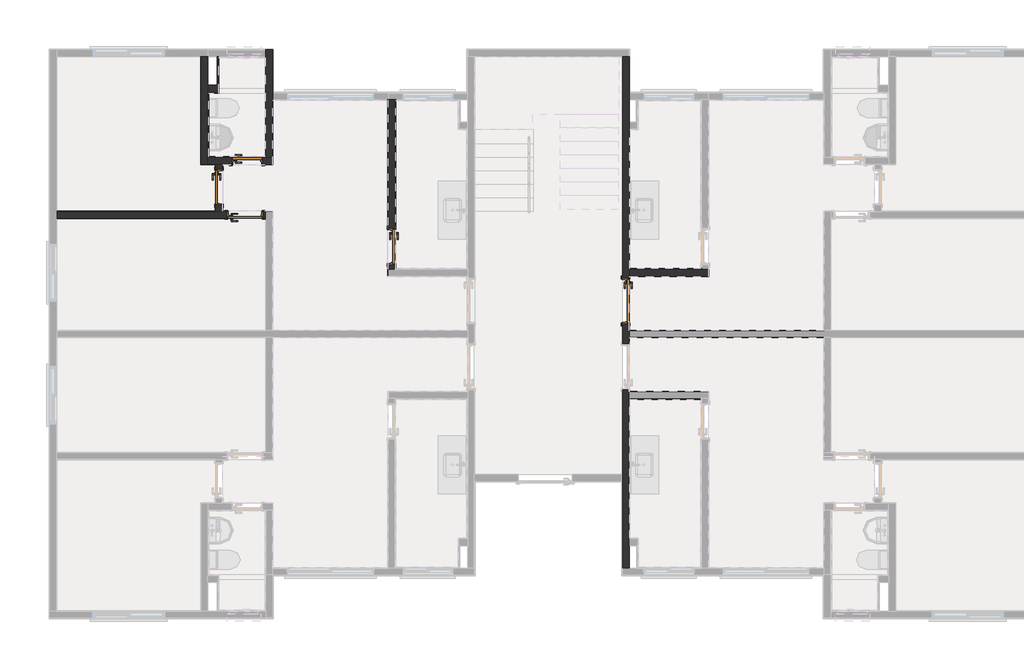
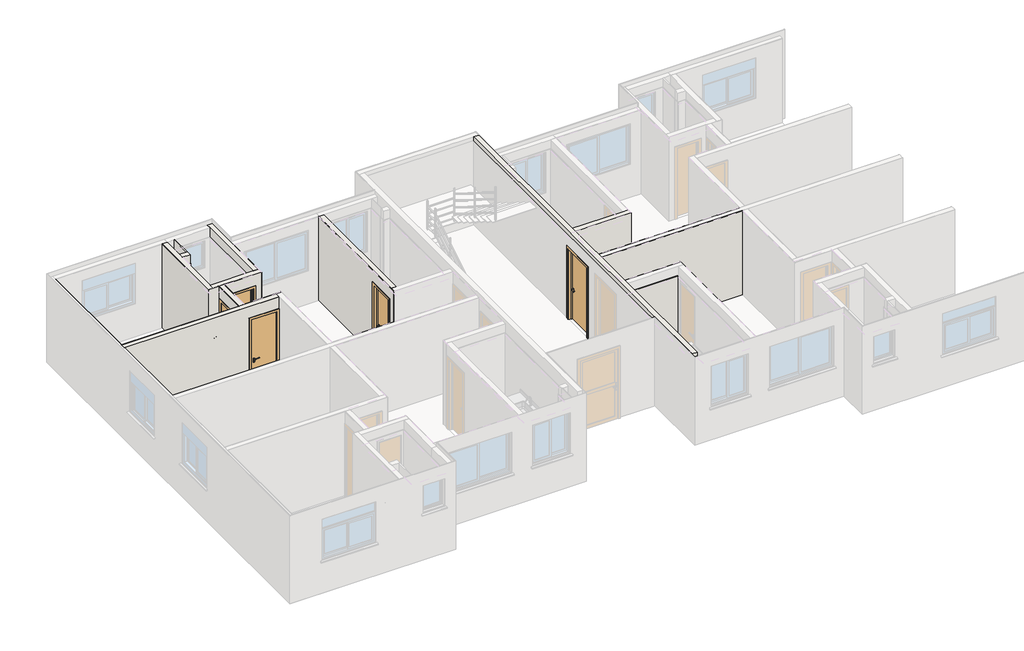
# One storey, part 4 of 9: 36 walls, 5 doors.
"""IFC4 building model written with IfcOpenShell, lengths in millimetres."""

from ifc_helpers import new_model, si_unit, frame, origin, place, context, project, spatial, polyline, outline, extrude, faceted_brep, transform, mapped, element, save
from components import porta_de_madeira_interna_60_x_210_porta_de_madeira_interna_6d4bee1b, porta_de_madeira_interna_70_x_210_porta_de_madeira_interna_d0067c94, porta_de_madeira_interna_70_x_210_porta_de_madeira_interna_f307109d, porta_de_madeira_interna_90x210_porta_de_madeira_interna_90_f331fdd0

model = new_model("IFC4")

# Units and contexts
model_context = context("Model", 3, world=origin())
ifc_project = project(units=[si_unit("LENGTHUNIT", "METRE", prefix="MILLI")], contexts=[model_context])

# Site, building, storey
site = spatial("IfcSite", under=ifc_project)
building = spatial("IfcBuilding", under=site)
storey = spatial("IfcBuildingStorey", under=building, Name="2º Pavimento", Elevation=2630.0)

# Doors
placement = place(None, origin())
porta_de_madeira_interna_60_x_210_porta_de_madeira_interna_shape = porta_de_madeira_interna_60_x_210_porta_de_madeira_interna_6d4bee1b(model_context)
element("IfcDoor", 1, ObjectType="Porta de Madeira Interna 60 x 210 : Porta de Madeira Interna 60 x 210", at=placement, inside=storey, context=model_context, shape_type="MappedRepresentation", body=[
    mapped(porta_de_madeira_interna_60_x_210_porta_de_madeira_interna_shape, transform((4137.9990083, 10003.1988664, 2630.0), x_axis=(1.0, 0.0, 0.0), y_axis=(0.0, 1.0, 0.0), z_axis=(0.0, 0.0, 1.0))),
])
porta_de_madeira_interna_70_x_210_porta_de_madeira_interna_shape = porta_de_madeira_interna_70_x_210_porta_de_madeira_interna_d0067c94(model_context)
element("IfcDoor", 2, ObjectType="Porta de Madeira Interna 70 x 210 : Porta de Madeira Interna 70 x 210", at=placement, inside=storey, context=model_context, shape_type="MappedRepresentation", body=[
    mapped(porta_de_madeira_interna_70_x_210_porta_de_madeira_interna_shape, transform((7146.1736861, 8221.3603139, 2630.0), x_axis=(0.0, -1.0, 0.0), y_axis=(1.0, 0.0, 0.0), z_axis=(0.0, 0.0, 1.0))),
])
porta_de_madeira_interna_70_x_210_porta_de_madeira_interna_2_shape = porta_de_madeira_interna_70_x_210_porta_de_madeira_interna_f307109d(model_context)
element("IfcDoor", 3, ObjectType="Porta de Madeira Interna 70 x 210 : Porta de Madeira Interna 70 x 210", at=placement, inside=storey, context=model_context, shape_type="MappedRepresentation", body=[
    mapped(porta_de_madeira_interna_70_x_210_porta_de_madeira_interna_2_shape, transform((3546.8230641, 9457.0248023, 2630.0), x_axis=(0.0, -1.0, 0.0), y_axis=(1.0, 0.0, 0.0), z_axis=(0.0, 0.0, 1.0))),
])
element("IfcDoor", 4, ObjectType="Porta de Madeira Interna 70 x 210 : Porta de Madeira Interna 70 x 210", at=placement, inside=storey, context=model_context, shape_type="MappedRepresentation", body=[
    mapped(porta_de_madeira_interna_70_x_210_porta_de_madeira_interna_2_shape, transform((4092.999908, 8876.8494803, 2630.0), x_axis=(1.0, 0.0, 0.0), y_axis=(0.0, 1.0, 0.0), z_axis=(0.0, 0.0, 1.0))),
])
porta_de_madeira_interna_90x210_porta_de_madeira_interna_90_shape = porta_de_madeira_interna_90x210_porta_de_madeira_interna_90_f331fdd0(model_context)
element("IfcDoor", 5, ObjectType="Porta de Madeira Interna 90x210 : Porta de Madeira Interna 90 x 210", at=placement, inside=storey, context=model_context, shape_type="MappedRepresentation", body=[
    mapped(porta_de_madeira_interna_90x210_porta_de_madeira_interna_90_shape, transform((12023.1734066, 7085.0103139, 2630.0), x_axis=(0.0, -1.0, 0.0), y_axis=(1.0, 0.0, 0.0), z_axis=(0.0, 0.0, 1.0))),
])

# Walls
element("IfcWall", 6, ObjectType="Mureta box", at=placement, inside=storey, context=model_context, shape_type="SweptSolid", body=[
    extrude(outline(polyline([(3529.99398, 11505.0235306), (4509.99398, 11505.0235306), (4509.99398, 11495.0235306), (3529.99398, 11495.0235306), (3529.99398, 11505.0235306)])), frame((0.0, 0.0, 2630.0), z_axis=(0.0, 0.0, 1.0), x_axis=(1.0, 0.0, 0.0)), (0.0, 0.0, 1.0), 90.0),
    extrude(outline(polyline([(4509.99398, 11425.0235306), (3529.99398, 11425.0235306), (3529.99398, 11435.0235306), (4509.99398, 11435.0235306), (4509.99398, 11425.0235306)])), frame((0.0, 0.0, 2630.0), z_axis=(0.0, 0.0, 1.0), x_axis=(1.0, 0.0, 0.0)), (0.0, 0.0, 1.0), 90.0),
    extrude(outline(polyline([(3529.99398, 11435.0235306), (3529.99398, 11495.0235306), (4509.99398, 11495.0235306), (4509.99398, 11435.0235306), (3529.99398, 11435.0235306)])), frame((0.0, 0.0, 2630.0), z_axis=(0.0, 0.0, 1.0), x_axis=(1.0, 0.0, 0.0)), (0.0, 0.0, 1.0), 90.0),
])
element("IfcWall", 7, ObjectType="Alvenaria Estrutural", at=placement, inside=storey, context=model_context, shape_type="Brep", body=[
    faceted_brep([(3619.9980641, 9930.0238664, 5140.0), (3619.9980641, 9924.0238664, 5140.0), (3619.9980641, 8956.0244803, 5140.0), (3619.9980641, 8950.0244803, 5140.0), (3619.9980641, 8950.0244803, 2630.0), (3619.9980641, 8956.0244803, 2630.0), (3619.9980641, 9082.0248023, 2630.0), (3619.9980641, 9082.0248023, 4755.0), (3619.9980641, 9832.0248023, 4755.0), (3619.9980641, 9832.0248023, 2630.0), (3619.9980641, 9924.0238664, 2630.0), (3619.9980641, 9930.0238664, 2630.0), (3479.9980641, 8950.0244803, 5140.0), (3479.9980641, 9924.0238664, 5140.0), (3479.9980641, 9930.0238664, 5140.0), (3479.9980641, 9930.0238664, 2630.0), (3479.9980641, 9924.0238664, 2630.0), (3479.9980641, 9832.0248023, 2630.0), (3479.9980641, 9832.0248023, 4755.0), (3479.9980641, 9082.0248023, 4755.0), (3479.9980641, 9082.0248023, 2630.0), (3479.9980641, 8950.0244803, 2630.0)], [[[0, 1, 2, 3, 4, 5, 6, 7, 8, 9, 10, 11]], [[12, 13, 14, 15, 16, 17, 18, 19, 20, 21]], [[5, 4, 21, 20, 6]], [[1, 0, 14, 13, 12, 3, 2]], [[7, 6, 20, 19]], [[8, 7, 19, 18]], [[9, 8, 18, 17]], [[4, 3, 12, 21]], [[0, 11, 15, 14]], [[10, 9, 17, 16, 15, 11]]]),
])
element("IfcWall", 8, ObjectType="Alvenaria Estrutural", at=placement, inside=storey, context=model_context, shape_type="Brep", body=[
    faceted_brep([(3179.9977061, 12180.0252435, 2630.0), (3179.9977061, 12174.0253822, 2630.0), (3179.9977061, 9930.025593, 2630.0), (3179.9977061, 9930.025593, 5140.0), (3179.9977061, 12174.0253822, 5140.0), (3179.9977061, 12180.0252435, 5140.0), (3319.9977061, 12180.0252435, 2630.0), (3319.9977061, 12180.0252435, 5140.0), (3319.9977061, 11580.0235306, 5140.0), (3319.9977061, 11440.0235306, 5140.0), (3319.9977061, 10070.0238664, 5140.0), (3319.9977061, 9930.025593, 5140.0), (3319.9977061, 9930.025593, 2630.0), (3319.9977061, 10070.0238664, 2630.0), (3319.9977061, 10090.0238664, 2630.0), (3319.9977061, 11420.0235306, 2630.0), (3319.9977061, 11440.0235306, 2630.0), (3319.9977061, 11580.0235306, 2630.0)], [[[0, 1, 2, 3, 4, 5]], [[6, 7, 8, 9, 10, 11, 12, 13, 14, 15, 16, 17]], [[1, 0, 6, 17, 16, 15, 14, 13, 12, 2]], [[3, 2, 12, 11]], [[4, 3, 11, 10, 9, 8, 7, 5]], [[0, 5, 7, 6]]]),
])
element("IfcWall", 9, ObjectType="Alvenaria Estrutural", at=placement, inside=storey, context=model_context, shape_type="Brep", body=[
    faceted_brep([(3319.9977061, 11440.0235306, 2630.0), (3539.99398, 11440.0235306, 2630.0), (3539.99398, 11440.0235306, 5140.0), (3319.9977061, 11440.0235306, 5140.0), (3319.9977061, 11580.0235306, 2630.0), (3319.9977061, 11580.0235306, 5140.0), (3516.99398, 11580.0235306, 5140.0), (3539.99398, 11580.0235306, 5140.0), (3539.99398, 11580.0235306, 2630.0), (3516.99398, 11580.0235306, 2630.0)], [[[0, 1, 2, 3]], [[4, 5, 6, 7, 8, 9]], [[1, 0, 4, 9, 8]], [[3, 2, 7, 6, 5]], [[2, 1, 8, 7]], [[0, 3, 5, 4]]]),
])
element("IfcWall", 10, ObjectType="Alvenaria Estrutural", at=placement, inside=storey, context=model_context, shape_type="Brep", body=[
    faceted_brep([(4669.9986472, 9930.0238664, 5140.0), (3625.9980641, 9930.0238664, 5140.0), (3619.9980641, 9930.0238664, 5140.0), (3479.9980641, 9930.0238664, 5140.0), (3319.9977061, 9930.0238664, 5140.0), (3319.9977061, 9930.0238664, 2630.0), (3479.9980641, 9930.0238664, 2630.0), (3619.9980641, 9930.0238664, 2630.0), (3625.9980641, 9930.0238664, 2630.0), (3812.9990083, 9930.0238664, 2630.0), (3812.9990083, 9930.0238664, 4755.0), (4462.9990083, 9930.0238664, 4755.0), (4462.9990083, 9930.0238664, 2630.0), (4669.9986472, 9930.0238664, 2630.0), (3319.9977061, 10070.0238664, 5140.0), (4529.9986472, 10070.0238664, 5140.0), (4669.9986472, 10070.0238664, 5140.0), (4669.9986472, 10070.0238664, 2630.0), (4529.9986472, 10070.0238664, 2630.0), (4462.9990083, 10070.0238664, 2630.0), (4462.9990083, 10070.0238664, 4755.0), (3812.9990083, 10070.0238664, 4755.0), (3812.9990083, 10070.0238664, 2630.0), (3319.9977061, 10070.0238664, 2630.0), (3319.9977061, 10070.0238664, 4880.0)], [[[0, 1, 2, 3, 4, 5, 6, 7, 8, 9, 10, 11, 12, 13]], [[14, 15, 16, 17, 18, 19, 20, 21, 22, 23, 24]], [[6, 5, 23, 22, 9, 8, 7]], [[1, 0, 16, 15, 14, 4, 3, 2]], [[12, 11, 20, 19]], [[11, 10, 21, 20]], [[10, 9, 22, 21]], [[0, 13, 17, 16]], [[5, 4, 14, 24, 23]], [[13, 12, 19, 18, 17]]]),
])
element("IfcWall", 11, ObjectType="Alvenaria Estrutural", at=placement, inside=storey, context=model_context, shape_type="Brep", body=[
    faceted_brep([(4529.9986472, 12320.025593, 2630.0), (4529.9986472, 12180.025593, 2630.0), (4529.9986472, 10090.0238664, 2630.0), (4529.9986472, 10070.0238664, 2630.0), (4529.9986472, 10070.0238664, 4880.0), (4529.9986472, 10070.0238664, 5140.0), (4529.9986472, 12180.025593, 5140.0), (4529.9986472, 12320.025593, 5140.0), (4669.9986472, 12320.025593, 2630.0), (4669.9986472, 12320.025593, 5140.0), (4669.9986472, 11420.0223004, 5140.0), (4669.9986472, 11280.0223004, 5140.0), (4669.9986472, 11274.0223004, 5140.0), (4669.9986472, 10070.0238664, 5140.0), (4669.9986472, 10070.0238664, 2630.0), (4669.9986472, 11274.0223004, 2630.0), (4669.9986472, 11280.0223004, 2630.0), (4669.9986472, 11420.0223004, 2630.0), (4669.9986472, 11436.0223004, 2630.0)], [[[0, 1, 2, 3, 4, 5, 6, 7]], [[8, 9, 10, 11, 12, 13, 14, 15, 16, 17, 18]], [[1, 0, 8, 18, 17, 16, 15, 14, 3, 2]], [[6, 5, 13, 12, 11, 10, 9, 7]], [[0, 7, 9, 8]], [[4, 3, 14, 13, 5]]]),
])
element("IfcWall", 12, ObjectType="Alvenaria Estrutural", at=placement, inside=storey, context=model_context, shape_type="Brep", body=[
    faceted_brep([(169.9991825, 8950.0244803, 5140.0), (175.9991825, 8950.0244803, 5140.0), (3473.9980641, 8950.0244803, 5140.0), (3479.9980641, 8950.0244803, 5140.0), (3619.9980641, 8950.0244803, 5140.0), (3625.9980641, 8950.0244803, 5140.0), (4529.9996867, 8950.0244803, 5140.0), (4529.9996867, 8950.0244803, 2630.0), (4467.999908, 8950.0244803, 2630.0), (4467.999908, 8950.0244803, 4755.0), (3717.999908, 8950.0244803, 4755.0), (3717.999908, 8950.0244803, 2630.0), (3625.9980641, 8950.0244803, 2630.0), (3619.9980641, 8950.0244803, 2630.0), (3479.9980641, 8950.0244803, 2630.0), (3473.9980641, 8950.0244803, 2630.0), (175.9991825, 8950.0244803, 2630.0), (169.9991825, 8950.0244803, 2630.0), (4529.9996867, 8810.0244803, 5140.0), (4523.9996867, 8810.0244803, 5140.0), (175.9991825, 8810.0244803, 5140.0), (169.9991825, 8810.0244803, 5140.0), (169.9991825, 8810.0244803, 2630.0), (175.9991825, 8810.0244803, 2630.0), (3717.999908, 8810.0244803, 2630.0), (3717.999908, 8810.0244803, 4755.0), (4467.999908, 8810.0244803, 4755.0), (4467.999908, 8810.0244803, 2630.0), (4523.9996867, 8810.0244803, 2630.0), (4529.9996867, 8810.0244803, 2630.0)], [[[0, 1, 2, 3, 4, 5, 6, 7, 8, 9, 10, 11, 12, 13, 14, 15, 16, 17]], [[18, 19, 20, 21, 22, 23, 24, 25, 26, 27, 28, 29]], [[8, 7, 29, 28, 27]], [[1, 0, 21, 20, 19, 18, 6, 5, 4, 3, 2]], [[9, 8, 27, 26]], [[10, 9, 26, 25]], [[11, 10, 25, 24]], [[7, 6, 18, 29]], [[0, 17, 22, 21]], [[12, 11, 24, 23, 22, 17, 16, 15, 14, 13]]]),
])
element("IfcWall", 13, ObjectType="Alvenaria Estrutural", at=placement, inside=storey, context=model_context, shape_type="Brep", body=[
    faceted_brep([(7072.9986861, 7746.3603139, 5140.0), (7072.9986861, 11274.0223004, 5140.0), (7072.9986861, 11280.0223004, 5140.0), (7072.9986861, 11280.0223004, 2630.0), (7072.9986861, 11274.0223004, 2630.0), (7072.9986861, 8596.3603139, 2630.0), (7072.9986861, 8596.3603139, 4755.0), (7072.9986861, 7846.3603139, 4755.0), (7072.9986861, 7846.3603139, 2630.0), (7072.9986861, 7746.3603139, 2630.0), (7212.9986861, 11280.0223004, 5140.0), (7212.9986861, 7746.3603139, 5140.0), (7212.9986861, 7746.3603139, 4880.0), (7212.9986861, 7746.3603139, 2630.0), (7212.9986861, 7766.3603139, 2630.0), (7212.9986861, 7846.3603139, 2630.0), (7212.9986861, 7846.3603139, 4755.0), (7212.9986861, 8596.3603139, 4755.0), (7212.9986861, 8596.3603139, 2630.0), (7212.9986861, 11260.0223004, 2630.0), (7212.9986861, 11280.0223004, 2630.0), (7212.9986861, 11280.0223004, 4880.0), (7079.9990083, 11280.0223004, 2630.0), (7079.9990083, 11280.0223004, 5140.0)], [[[0, 1, 2, 3, 4, 5, 6, 7, 8, 9]], [[10, 11, 12, 13, 14, 15, 16, 17, 18, 19, 20, 21]], [[4, 3, 22, 20, 19, 18, 5]], [[1, 0, 11, 10, 23, 2]], [[8, 7, 16, 15]], [[7, 6, 17, 16]], [[6, 5, 18, 17]], [[0, 9, 13, 12, 11]], [[3, 2, 23, 10, 21, 20, 22]], [[9, 8, 15, 14, 13]]]),
])
element("IfcWall", 14, ObjectType="Alvenaria Estrutural", at=placement, inside=storey, context=model_context, shape_type="Brep", body=[
    faceted_brep([(11949.9984066, 12173.9995833, 2630.0), (11949.9984066, 12179.9995833, 2630.0), (12089.9984066, 12179.9995833, 2630.0), (12089.9984066, 11436.0223004, 2630.0), (12089.9984066, 11420.0223004, 2630.0), (12089.9984066, 10815.0073729, 2630.0), (12089.9984066, 10675.0073729, 2630.0), (12089.9984066, 10655.0073729, 2630.0), (12089.9984066, 7766.3603139, 2630.0), (12089.9984066, 7746.3603139, 2630.0), (12089.9984066, 7606.3603139, 2630.0), (12089.9984066, 7560.0103139, 2630.0), (11949.9984066, 7560.0103139, 2630.0), (11949.9984066, 7560.0103139, 2640.0), (12089.9984066, 7560.0103139, 2640.0), (12089.9984066, 7560.0103139, 4755.0), (11949.9984066, 7560.0103139, 4755.0), (11949.9984066, 6610.0103139, 2630.0), (11949.9984066, 6610.0103139, 2640.0), (11949.9984066, 6610.0103139, 4755.0), (12089.9984066, 6610.0103139, 4755.0), (12089.9984066, 6610.0103139, 2640.0), (12089.9984066, 6610.0103139, 2630.0), (11949.9984066, 6190.0103139, 2630.0), (12089.9984066, 6476.0103139, 2630.0), (12089.9984066, 6470.0103139, 2630.0), (12089.9984066, 6330.0103139, 2630.0), (12089.9984066, 6324.0103139, 2630.0), (12089.9984066, 6190.0103139, 2630.0), (11949.9984066, 6190.0103139, 2640.0), (12089.9984066, 6190.0103139, 2640.0), (12089.9984066, 6190.0103139, 4755.0), (11949.9984066, 6190.0103139, 4755.0), (11949.9984066, 5240.0103139, 2630.0), (11949.9984066, 5240.0103139, 2640.0), (11949.9984066, 5240.0103139, 4755.0), (12089.9984066, 5240.0103139, 4755.0), (12089.9984066, 5240.0103139, 2640.0), (12089.9984066, 5240.0103139, 2630.0), (11949.9984066, 3468.9995833, 2630.0), (12089.9984066, 5193.6603139, 2630.0), (12089.9984066, 5053.6603139, 2630.0), (12089.9984066, 5033.6603139, 2630.0), (12089.9984066, 2145.0132549, 2630.0), (12089.9984066, 2125.0132549, 2630.0), (12089.9984066, 1985.0132549, 2630.0), (12089.9984066, 1519.9983274, 2630.0), (11949.9984066, 1519.9983274, 2630.0), (11949.9984066, 3314.00443, 2630.0), (11949.9984066, 3330.00443, 2630.0), (11949.9984066, 1519.9983274, 2640.0), (12089.9984066, 1519.9983274, 2640.0), (12089.9984066, 1519.9983274, 5150.0), (12089.9984066, 1519.9983274, 5260.0), (11949.9984066, 1519.9983274, 5260.0), (11949.9984066, 1519.9983274, 5150.0), (12089.9984066, 12179.9995833, 2640.0), (12089.9984066, 12179.9995833, 5150.0), (12089.9984066, 12179.9995833, 5260.0), (12089.9984066, 11436.0223004, 5260.0), (12089.9984066, 11420.0223004, 5260.0), (11949.9984066, 3314.00443, 5260.0), (11949.9984066, 3330.00443, 5260.0), (11949.9984066, 12179.9995833, 5260.0), (11949.9984066, 12179.9995833, 5150.0), (11949.9984066, 12179.9995833, 5140.0), (11949.9984066, 12179.9995833, 2640.0)], [[[0, 1, 2, 3, 4, 5, 6, 7, 8, 9, 10, 11, 12]], [[13, 12, 11, 14, 15, 16]], [[17, 18, 19, 20, 21, 22]], [[23, 17, 22, 24, 25, 26, 27, 28]], [[29, 23, 28, 30, 31, 32]], [[33, 34, 35, 36, 37, 38]], [[39, 33, 38, 40, 41, 42, 43, 44, 45, 46, 47, 48, 49]], [[50, 47, 46, 51, 52, 53, 54, 55]], [[51, 46, 45, 44, 43, 42, 41, 40, 38, 37, 36, 31, 30, 28, 27, 26, 25, 24, 22, 21, 20, 15, 14, 11, 10, 9, 8, 7, 6, 5, 4, 3, 2, 56, 57, 58, 59, 60, 53, 52]], [[19, 16, 15, 20]], [[35, 32, 31, 36]], [[34, 33, 39, 49, 48, 47, 50, 55, 54, 61, 62, 63, 64, 65, 66, 1, 0, 12, 13, 16, 19, 18, 17, 23, 29, 32, 35]], [[1, 66, 65, 64, 63, 58, 57, 56, 2]], [[61, 54, 53, 60, 59, 58, 63, 62]]]),
])
element("IfcWall", 15, ObjectType="Alvenaria Estrutural", at=placement, inside=storey, context=model_context, shape_type="Brep", body=[
    faceted_brep([(12089.9984066, 7606.3603139, 2630.0), (12095.9984066, 7606.3603139, 2630.0), (13746.9960213, 7606.3603139, 2630.0), (13746.9960213, 7606.3603139, 5140.0), (12095.9984066, 7606.3603139, 5140.0), (12089.9984066, 7606.3603139, 5140.0), (12089.9984066, 7746.3603139, 2630.0), (12089.9984066, 7746.3603139, 4880.0), (12089.9984066, 7746.3603139, 5140.0), (13606.9960213, 7746.3603139, 5140.0), (13746.9960213, 7746.3603139, 5140.0), (13746.9960213, 7746.3603139, 2630.0), (13606.9960213, 7746.3603139, 2630.0), (13586.992975, 7746.3603139, 2630.0), (12109.9984066, 7746.3603139, 2630.0)], [[[0, 1, 2, 3, 4, 5]], [[6, 7, 8, 9, 10, 11, 12, 13, 14]], [[1, 0, 6, 14, 13, 12, 11, 2]], [[4, 3, 10, 9, 8, 5]], [[3, 2, 11, 10]], [[0, 5, 8, 7, 6]]]),
])
element("IfcWall", 16, ObjectType="Azulejo", at=placement, inside=storey, context=model_context, shape_type="SweptSolid", body=[
    extrude(outline(polyline([(11280.0223004, 2630.0), (8596.3603139, 2630.0), (8596.3603139, 4755.0), (7846.3603139, 4755.0), (7846.3603139, 2630.0), (7746.3603139, 2630.0), (7746.3603139, 4880.0), (11280.0223004, 4880.0), (11280.0223004, 2630.0)])), frame((7223.0017324, 0.0, 0.0), z_axis=(1.0, 0.0, 0.0), x_axis=(0.0, 1.0, 0.0)), (0.0, 0.0, 1.0), 10.0),
    extrude(outline(polyline([(7746.3603139, 4880.0), (11280.0223004, 4880.0), (11280.0223004, 2630.0), (8596.3603139, 2630.0), (8596.3603139, 4755.0), (7846.3603139, 4755.0), (7846.3603139, 2630.0), (7746.3603139, 2630.0), (7746.3603139, 4880.0)])), frame((7213.0017324, 0.0, 0.0), z_axis=(1.0, 0.0, 0.0), x_axis=(0.0, 1.0, 0.0)), (0.0, 0.0, 1.0), 10.0),
])
element("IfcWall", 17, ObjectType="Azulejo", at=placement, inside=storey, context=model_context, shape_type="SolidModel", body=[
    faceted_brep([(3339.9976538, 10090.0238664, 2630.0), (3812.9990083, 10090.0238664, 2630.0), (3812.9990083, 10080.0238664, 2630.0), (3329.9976538, 10080.0238664, 2630.0), (3329.9976538, 10090.0238664, 2630.0), (4509.9990083, 10090.0238664, 4880.0), (3339.9976538, 10090.0238664, 4880.0), (3329.9976538, 10090.0238664, 4880.0), (3329.9976538, 10080.0238664, 4880.0), (4519.9990083, 10080.0238664, 4880.0), (4519.9990083, 10090.0238664, 4880.0), (4462.9990083, 10090.0238664, 4755.0), (4462.9990083, 10090.0238664, 2630.0), (4462.9990083, 10080.0238664, 2630.0), (4462.9990083, 10080.0238664, 4755.0), (3812.9990083, 10080.0238664, 4755.0), (3812.9990083, 10090.0238664, 4755.0), (4509.9990083, 10090.0238664, 2630.0), (4519.9990083, 10090.0238664, 2630.0), (4519.9990083, 10080.0238664, 2630.0)], [[[0, 1, 2, 3, 4]], [[5, 6, 7, 8, 9, 10]], [[11, 12, 13, 14]], [[11, 14, 15, 16]], [[2, 1, 16, 15]], [[13, 12, 17, 18, 19]], [[14, 13, 19, 9, 8, 3, 2, 15]], [[1, 0, 4, 7, 6, 5, 10, 18, 17, 12, 11, 16]], [[4, 3, 8, 7]], [[10, 9, 19, 18]]]),
    extrude(outline(polyline([(4880.0, 4529.9986472), (4880.0, 3319.9977061), (2630.0, 3319.9977061), (2630.0, 3812.9990083), (4755.0, 3812.9990083), (4755.0, 4462.9990083), (2630.0, 4462.9990083), (2630.0, 4529.9986472), (4880.0, 4529.9986472)])), frame((0.0, 10070.0238664, 0.0), z_axis=(0.0, 1.0, 0.0), x_axis=(0.0, 0.0, 1.0)), (0.0, 0.0, 1.0), 10.0),
])
element("IfcWall", 18, ObjectType="Azulejo", at=placement, inside=storey, context=model_context, shape_type="SweptSolid", body=[
    extrude(outline(polyline([(3549.99398, 11580.0235306), (3549.99398, 11430.0235306), (3539.99398, 11430.0235306), (3539.99398, 11580.0235306), (3549.99398, 11580.0235306)])), frame((0.0, 0.0, 2630.0), z_axis=(0.0, 0.0, 1.0), x_axis=(1.0, 0.0, 0.0)), (0.0, 0.0, 1.0), 2250.0),
    extrude(outline(polyline([(3529.99398, 11440.0235306), (3529.99398, 11580.0235306), (3539.99398, 11580.0235306), (3539.99398, 11440.0235306), (3529.99398, 11440.0235306)])), frame((0.0, 0.0, 2630.0), z_axis=(0.0, 0.0, 1.0), x_axis=(1.0, 0.0, 0.0)), (0.0, 0.0, 1.0), 2250.0),
])
element("IfcWall", 19, ObjectType="Azulejo", at=placement, inside=storey, context=model_context, shape_type="Brep", body=[
    faceted_brep([(3549.99398, 11430.0235306, 2630.0), (3549.99398, 11420.0235306, 2630.0), (3339.9976538, 11420.0235306, 2630.0), (3329.9976538, 11420.0235306, 2630.0), (3329.9976538, 11430.0235306, 2630.0), (3339.9976538, 11420.0235306, 4880.0), (3549.99398, 11420.0235306, 4880.0), (3549.99398, 11430.0235306, 4880.0), (3329.9976538, 11430.0235306, 4880.0), (3329.9976538, 11420.0235306, 4880.0)], [[[0, 1, 2, 3, 4]], [[5, 6, 7, 8, 9]], [[1, 0, 7, 6]], [[7, 0, 4, 8]], [[2, 1, 6, 5, 9, 3]], [[4, 3, 9, 8]]]),
    faceted_brep([(3319.9977061, 11430.0235306, 2630.0), (3539.99398, 11430.0235306, 2630.0), (3539.99398, 11430.0235306, 4880.0), (3319.9977061, 11430.0235306, 4880.0), (3319.9977061, 11440.0235306, 2630.0), (3319.9977061, 11440.0235306, 4880.0), (3529.99398, 11440.0235306, 4880.0), (3539.99398, 11440.0235306, 4880.0), (3539.99398, 11440.0235306, 2630.0), (3529.99398, 11440.0235306, 2630.0)], [[[0, 1, 2, 3]], [[4, 5, 6, 7, 8, 9]], [[9, 8, 1, 0, 4]], [[6, 5, 3, 2, 7]], [[5, 4, 0, 3]], [[8, 7, 2, 1]]]),
])
element("IfcWall", 20, ObjectType="Azulejo", at=placement, inside=storey, context=model_context, shape_type="SweptSolid", body=[
    extrude(outline(polyline([(3339.9976538, 11420.0235306), (3339.9976538, 10090.0238664), (3329.9976538, 10090.0238664), (3329.9976538, 11420.0235306), (3339.9976538, 11420.0235306)])), frame((0.0, 0.0, 2630.0), z_axis=(0.0, 0.0, 1.0), x_axis=(1.0, 0.0, 0.0)), (0.0, 0.0, 1.0), 2250.0),
    extrude(outline(polyline([(3319.9976538, 10080.0238664), (3319.9976538, 11430.0235306), (3329.9976538, 11430.0235306), (3329.9976538, 10080.0238664), (3319.9976538, 10080.0238664)])), frame((0.0, 0.0, 2630.0), z_axis=(0.0, 0.0, 1.0), x_axis=(1.0, 0.0, 0.0)), (0.0, 0.0, 1.0), 2250.0),
])
element("IfcWall", 21, ObjectType="Azulejo", at=placement, inside=storey, context=model_context, shape_type="SweptSolid", body=[
    extrude(outline(polyline([(13606.9960213, 5033.6603139), (12089.9984066, 5033.6603139), (12089.9984066, 5043.6603139), (13606.9960213, 5043.6603139), (13606.9960213, 5033.6603139)])), frame((0.0, 0.0, 2630.0), z_axis=(0.0, 0.0, 1.0), x_axis=(1.0, 0.0, 0.0)), (0.0, 0.0, 1.0), 2250.0),
    extrude(outline(polyline([(12089.9984066, 5053.6603139), (13606.9960213, 5053.6603139), (13606.9960213, 5043.6603139), (12089.9984066, 5043.6603139), (12089.9984066, 5053.6603139)])), frame((0.0, 0.0, 2630.0), z_axis=(0.0, 0.0, 1.0), x_axis=(1.0, 0.0, 0.0)), (0.0, 0.0, 1.0), 2250.0),
])
element("IfcWall", 22, ObjectType="Azulejo", at=placement, inside=storey, context=model_context, shape_type="SweptSolid", body=[
    extrude(outline(polyline([(12089.9984066, 7766.3603139), (13606.9960213, 7766.3603139), (13606.9960213, 7756.3603139), (12089.9984066, 7756.3603139), (12089.9984066, 7766.3603139)])), frame((0.0, 0.0, 2630.0), z_axis=(0.0, 0.0, 1.0), x_axis=(1.0, 0.0, 0.0)), (0.0, 0.0, 1.0), 2250.0),
    extrude(outline(polyline([(13606.9960213, 7746.3603139), (12089.9984066, 7746.3603139), (12089.9984066, 7756.3603139), (13606.9960213, 7756.3603139), (13606.9960213, 7746.3603139)])), frame((0.0, 0.0, 2630.0), z_axis=(0.0, 0.0, 1.0), x_axis=(1.0, 0.0, 0.0)), (0.0, 0.0, 1.0), 2250.0),
])
element("IfcWall", 23, ObjectType="Azulejo - Shaft", at=placement, inside=storey, context=model_context, shape_type="SweptSolid", body=[
    extrude(outline(polyline([(3539.99398, 11580.0235306), (3539.99398, 12160.025593), (3549.99398, 12160.025593), (3549.99398, 11580.0235306), (3539.99398, 11580.0235306)])), frame((0.0, 0.0, 2630.0), z_axis=(0.0, 0.0, 1.0), x_axis=(1.0, 0.0, 0.0)), (0.0, 0.0, 1.0), 2250.0),
])
element("IfcWall", 24, ObjectType="Gesso Liso + Pintura", at=placement, inside=storey, context=model_context, shape_type="SweptSolid", body=[
    extrude(outline(polyline([(5140.0, 4529.9996867), (5140.0, 169.9991825), (2630.0, 169.9991825), (2630.0, 3717.999908), (4755.0, 3717.999908), (4755.0, 4467.999908), (2630.0, 4467.999908), (2630.0, 4529.9996867), (5140.0, 4529.9996867)])), frame((0.0, 8804.0244803, 0.0), z_axis=(0.0, 1.0, 0.0), x_axis=(0.0, 0.0, 1.0)), (0.0, 0.0, 1.0), 1.0),
    extrude(outline(polyline([(2630.0, 169.9991825), (2630.0, 3717.999908), (4755.0, 3717.999908), (4755.0, 4467.999908), (2630.0, 4467.999908), (2630.0, 4529.9996867), (5140.0, 4529.9996867), (5140.0, 169.9991825), (2630.0, 169.9991825)])), frame((0.0, 8805.0244803, 0.0), z_axis=(0.0, 1.0, 0.0), x_axis=(0.0, 0.0, 1.0)), (0.0, 0.0, 1.0), 5.0),
])
element("IfcWall", 25, ObjectType="Gesso Liso + Pintura", at=placement, inside=storey, context=model_context, shape_type="SolidModel", body=[
    faceted_brep([(175.9991825, 12174.0253822, 2630.0), (175.9991825, 8950.0244803, 2630.0), (174.9991825, 8950.0244803, 2630.0), (174.9991825, 12175.0253822, 2630.0), (175.9991825, 12175.0253822, 2630.0), (174.9991825, 8950.0244803, 5140.0), (175.9991825, 8950.0244803, 5140.0), (175.9991825, 12174.0253822, 5140.0), (175.9991825, 12175.0253822, 5140.0), (174.9991825, 12175.0253822, 5140.0)], [[[0, 1, 2, 3, 4]], [[5, 6, 7, 8, 9]], [[2, 1, 6, 5]], [[2, 5, 9, 3]], [[1, 0, 4, 8, 7, 6]], [[4, 3, 9, 8]]]),
    extrude(outline(polyline([(169.9991825, 8950.0244803), (169.9991825, 12180.0252435), (174.9991825, 12180.0252435), (174.9991825, 8950.0244803), (169.9991825, 8950.0244803)])), frame((0.0, 0.0, 2630.0), z_axis=(0.0, 0.0, 1.0), x_axis=(1.0, 0.0, 0.0)), (0.0, 0.0, 1.0), 2510.0),
])
element("IfcWall", 26, ObjectType="Gesso Liso + Pintura", at=placement, inside=storey, context=model_context, shape_type="SolidModel", body=[
    extrude(outline(polyline([(3173.9976538, 9924.0238664), (3173.9976538, 12174.0253822), (3174.9976538, 12174.0253822), (3174.9976538, 9924.0238664), (3173.9976538, 9924.0238664)])), frame((0.0, 0.0, 2630.0), z_axis=(0.0, 0.0, 1.0), x_axis=(1.0, 0.0, 0.0)), (0.0, 0.0, 1.0), 2510.0),
    faceted_brep([(3174.9976538, 12175.0253822, 2630.0), (3174.9976538, 9925.0238664, 2630.0), (3174.9976538, 9925.0238664, 5140.0), (3174.9976538, 12175.0253822, 5140.0), (3179.9976538, 12175.0253822, 2630.0), (3179.9976538, 12175.0253822, 5140.0), (3179.9976538, 9930.0238664, 5140.0), (3179.9976538, 9925.0238664, 5140.0), (3179.9976538, 9925.0238664, 2630.0), (3179.9976538, 9930.0238664, 2630.0)], [[[0, 1, 2, 3]], [[4, 5, 6, 7, 8, 9]], [[9, 8, 1, 0, 4]], [[6, 5, 3, 2, 7]], [[5, 4, 0, 3]], [[8, 7, 2, 1]]]),
])
element("IfcWall", 27, ObjectType="Gesso Liso + Pintura", at=placement, inside=storey, context=model_context, shape_type="SolidModel", body=[
    faceted_brep([(3473.9980641, 9924.0238664, 2630.0), (3174.9976538, 9924.0238664, 2630.0), (3174.9976538, 9925.0238664, 2630.0), (3474.9980641, 9925.0238664, 2630.0), (3474.9980641, 9924.0238664, 2630.0), (3174.9976538, 9924.0238664, 5140.0), (3473.9980641, 9924.0238664, 5140.0), (3474.9980641, 9924.0238664, 5140.0), (3474.9980641, 9925.0238664, 5140.0), (3174.9976538, 9925.0238664, 5140.0)], [[[0, 1, 2, 3, 4]], [[5, 6, 7, 8, 9]], [[2, 9, 8, 3]], [[1, 0, 4, 7, 6, 5]], [[1, 5, 9, 2]], [[4, 3, 8, 7]]]),
    extrude(outline(polyline([(3179.9976538, 9930.0238664), (3479.9980641, 9930.0238664), (3479.9980641, 9925.0238664), (3179.9976538, 9925.0238664), (3179.9976538, 9930.0238664)])), frame((0.0, 0.0, 2630.0), z_axis=(0.0, 0.0, 1.0), x_axis=(1.0, 0.0, 0.0)), (0.0, 0.0, 1.0), 2510.0),
])
element("IfcWall", 28, ObjectType="Gesso Liso + Pintura", at=placement, inside=storey, context=model_context, shape_type="SolidModel", body=[
    faceted_brep([(3473.9980641, 9832.0248023, 2630.0), (3473.9980641, 9924.0238664, 2630.0), (3474.9980641, 9924.0238664, 2630.0), (3474.9980641, 9832.0248023, 2630.0), (3474.9980641, 9924.0238664, 5140.0), (3473.9980641, 9924.0238664, 5140.0), (3473.9980641, 8956.0244803, 5140.0), (3473.9980641, 8955.0244803, 5140.0), (3474.9980641, 8955.0244803, 5140.0), (3473.9980641, 9082.0248023, 2630.0), (3473.9980641, 9082.0248023, 4755.0), (3474.9980641, 9082.0248023, 4755.0), (3474.9980641, 9082.0248023, 2630.0), (3473.9980641, 9832.0248023, 4755.0), (3474.9980641, 9832.0248023, 4755.0), (3474.9980641, 8955.0244803, 2630.0), (3473.9980641, 8955.0244803, 2630.0), (3473.9980641, 8956.0244803, 2630.0)], [[[0, 1, 2, 3]], [[4, 5, 6, 7, 8]], [[9, 10, 11, 12]], [[11, 10, 13, 14]], [[0, 3, 14, 13]], [[2, 1, 5, 4]], [[9, 12, 15, 16, 17]], [[3, 2, 4, 8, 15, 12, 11, 14]], [[1, 0, 13, 10, 9, 17, 16, 7, 6, 5]], [[8, 7, 16, 15]]]),
    extrude(outline(polyline([(9925.0238664, 2630.0), (9832.0248023, 2630.0), (9832.0248023, 4755.0), (9082.0248023, 4755.0), (9082.0248023, 2630.0), (8950.0244803, 2630.0), (8950.0244803, 5140.0), (9925.0238664, 5140.0), (9925.0238664, 2630.0)])), frame((3474.9980641, 0.0, 0.0), z_axis=(1.0, 0.0, 0.0), x_axis=(0.0, 1.0, 0.0)), (0.0, 0.0, 1.0), 5.0),
])
element("IfcWall", 29, ObjectType="Gesso Liso + Pintura", at=placement, inside=storey, context=model_context, shape_type="SweptSolid", body=[
    extrude(outline(polyline([(169.9991825, 8956.0244803), (3473.9980641, 8956.0244803), (3473.9980641, 8955.0244803), (169.9991825, 8955.0244803), (169.9991825, 8956.0244803)])), frame((0.0, 0.0, 2630.0), z_axis=(0.0, 0.0, 1.0), x_axis=(1.0, 0.0, 0.0)), (0.0, 0.0, 1.0), 2510.0),
    extrude(outline(polyline([(3474.9980641, 8950.0244803), (169.9991825, 8950.0244803), (169.9991825, 8955.0244803), (3474.9980641, 8955.0244803), (3474.9980641, 8950.0244803)])), frame((0.0, 0.0, 2630.0), z_axis=(0.0, 0.0, 1.0), x_axis=(1.0, 0.0, 0.0)), (0.0, 0.0, 1.0), 2510.0),
])
element("IfcWall", 30, ObjectType="Gesso Liso + Pintura", at=placement, inside=storey, context=model_context, shape_type="SolidModel", body=[
    extrude(outline(polyline([(4675.9990083, 11280.0223004), (4675.9990083, 9924.0238664), (4674.9990083, 9924.0238664), (4674.9990083, 11280.0223004), (4675.9990083, 11280.0223004)])), frame((0.0, 0.0, 2630.0), z_axis=(0.0, 0.0, 1.0), x_axis=(1.0, 0.0, 0.0)), (0.0, 0.0, 1.0), 2510.0),
    faceted_brep([(4674.9990083, 9925.0238664, 2630.0), (4674.9990083, 11280.0223004, 2630.0), (4674.9990083, 11280.0223004, 5140.0), (4674.9990083, 9925.0238664, 5140.0), (4669.9990083, 11280.0223004, 2630.0), (4669.9990083, 9930.0238664, 2630.0), (4669.9990083, 9925.0238664, 2630.0), (4669.9990083, 9925.0238664, 5140.0), (4669.9990083, 9930.0238664, 5140.0), (4669.9990083, 11280.0223004, 5140.0)], [[[0, 1, 2, 3]], [[4, 5, 6, 7, 8, 9]], [[5, 4, 1, 0, 6]], [[8, 7, 3, 2, 9]], [[4, 9, 2, 1]], [[7, 6, 0, 3]]]),
])
element("IfcWall", 31, ObjectType="Gesso Liso + Pintura", at=placement, inside=storey, context=model_context, shape_type="SweptSolid", body=[
    extrude(outline(polyline([(5140.0, 4674.9990083), (5140.0, 3619.9980641), (2630.0, 3619.9980641), (2630.0, 3812.9990083), (4755.0, 3812.9990083), (4755.0, 4462.9990083), (2630.0, 4462.9990083), (2630.0, 4674.9990083), (5140.0, 4674.9990083)])), frame((0.0, 9924.0238664, 0.0), z_axis=(0.0, 1.0, 0.0), x_axis=(0.0, 0.0, 1.0)), (0.0, 0.0, 1.0), 1.0),
    extrude(outline(polyline([(2630.0, 4462.9990083), (2630.0, 4669.9990083), (5140.0, 4669.9990083), (5140.0, 3619.9980641), (2630.0, 3619.9980641), (2630.0, 3812.9990083), (4755.0, 3812.9990083), (4755.0, 4462.9990083), (2630.0, 4462.9990083)])), frame((0.0, 9925.0238664, 0.0), z_axis=(0.0, 1.0, 0.0), x_axis=(0.0, 0.0, 1.0)), (0.0, 0.0, 1.0), 5.0),
])
element("IfcWall", 32, ObjectType="Gesso Liso + Pintura", at=placement, inside=storey, context=model_context, shape_type="SweptSolid", body=[
    extrude(outline(polyline([(9930.0238664, 2630.0), (9832.0248023, 2630.0), (9832.0248023, 4755.0), (9082.0248023, 4755.0), (9082.0248023, 2630.0), (8950.0244803, 2630.0), (8950.0244803, 5140.0), (9930.0238664, 5140.0), (9930.0238664, 2630.0)])), frame((3624.9980641, 0.0, 0.0), z_axis=(1.0, 0.0, 0.0), x_axis=(0.0, 1.0, 0.0)), (0.0, 0.0, 1.0), 1.0),
    extrude(outline(polyline([(8950.0244803, 5140.0), (9930.0238664, 5140.0), (9930.0238664, 2630.0), (9832.0248023, 2630.0), (9832.0248023, 4755.0), (9082.0248023, 4755.0), (9082.0248023, 2630.0), (8950.0244803, 2630.0), (8950.0244803, 5140.0)])), frame((3619.9980641, 0.0, 0.0), z_axis=(1.0, 0.0, 0.0), x_axis=(0.0, 1.0, 0.0)), (0.0, 0.0, 1.0), 5.0),
])
element("IfcWall", 33, ObjectType="Gesso Liso + Pintura", at=placement, inside=storey, context=model_context, shape_type="SolidModel", body=[
    extrude(outline(polyline([(2630.0, 3619.9980641), (2630.0, 3717.999908), (4755.0, 3717.999908), (4755.0, 4467.999908), (2630.0, 4467.999908), (2630.0, 4674.9996867), (5140.0, 4674.9996867), (5140.0, 3619.9980641), (2630.0, 3619.9980641)])), frame((0.0, 8955.0244803, 0.0), z_axis=(0.0, 1.0, 0.0), x_axis=(0.0, 0.0, 1.0)), (0.0, 0.0, 1.0), 1.0),
    faceted_brep([(3717.999908, 8955.0244803, 2630.0), (3619.9980641, 8955.0244803, 2630.0), (3619.9980641, 8955.0244803, 5140.0), (4669.9996867, 8955.0244803, 5140.0), (4669.9996867, 8955.0244803, 2630.0), (4467.999908, 8955.0244803, 2630.0), (4467.999908, 8955.0244803, 4755.0), (3717.999908, 8955.0244803, 4755.0), (4669.9996867, 8950.0244803, 5140.0), (4529.9996867, 8950.0244803, 5140.0), (3619.9980641, 8950.0244803, 5140.0), (3619.9980641, 8950.0244803, 2630.0), (3717.999908, 8950.0244803, 2630.0), (3717.999908, 8950.0244803, 4755.0), (4467.999908, 8950.0244803, 4755.0), (4467.999908, 8950.0244803, 2630.0), (4529.9996867, 8950.0244803, 2630.0), (4669.9996867, 8950.0244803, 2630.0)], [[[0, 1, 2, 3, 4, 5, 6, 7]], [[8, 9, 10, 11, 12, 13, 14, 15, 16, 17]], [[12, 11, 1, 0]], [[9, 8, 3, 2, 10]], [[15, 14, 6, 5]], [[14, 13, 7, 6]], [[13, 12, 0, 7]], [[8, 17, 4, 3]], [[11, 10, 2, 1]], [[16, 15, 5, 4, 17]]]),
])
element("IfcWall", 34, ObjectType="Gesso Liso + Pintura", at=placement, inside=storey, context=model_context, shape_type="SolidModel", body=[
    extrude(outline(polyline([(7601.3603139, 5140.0), (11280.0223004, 5140.0), (11280.0223004, 2630.0), (8596.3603139, 2630.0), (8596.3603139, 4755.0), (7846.3603139, 4755.0), (7846.3603139, 2630.0), (7601.3603139, 2630.0), (7601.3603139, 5140.0)])), frame((7066.9986861, 0.0, 0.0), z_axis=(1.0, 0.0, 0.0), x_axis=(0.0, 1.0, 0.0)), (0.0, 0.0, 1.0), 1.0),
    faceted_brep([(7067.9986861, 7846.3603139, 2630.0), (7067.9986861, 7606.3603139, 2630.0), (7067.9986861, 7606.3603139, 5140.0), (7067.9986861, 11280.0223004, 5140.0), (7067.9986861, 11280.0223004, 2630.0), (7067.9986861, 8596.3603139, 2630.0), (7067.9986861, 8596.3603139, 4755.0), (7067.9986861, 7846.3603139, 4755.0), (7072.9986861, 11280.0223004, 5140.0), (7072.9986861, 7746.3603139, 5140.0), (7072.9986861, 7606.3603139, 5140.0), (7072.9986861, 7606.3603139, 2630.0), (7072.9986861, 7746.3603139, 2630.0), (7072.9986861, 7846.3603139, 2630.0), (7072.9986861, 7846.3603139, 4755.0), (7072.9986861, 8596.3603139, 4755.0), (7072.9986861, 8596.3603139, 2630.0), (7072.9986861, 11280.0223004, 2630.0)], [[[0, 1, 2, 3, 4, 5, 6, 7]], [[8, 9, 10, 11, 12, 13, 14, 15, 16, 17]], [[12, 11, 1, 0, 13]], [[9, 8, 3, 2, 10]], [[14, 13, 0, 7]], [[15, 14, 7, 6]], [[16, 15, 6, 5]], [[11, 10, 2, 1]], [[8, 17, 4, 3]], [[17, 16, 5, 4]]]),
])
element("IfcWall", 35, ObjectType="Gesso Liso + Pintura", at=placement, inside=storey, context=model_context, shape_type="SweptSolid", body=[
    extrude(outline(polyline([(16149.9950207, 6324.0103139), (12089.9984066, 6324.0103139), (12089.9984066, 6325.0103139), (16149.9950207, 6325.0103139), (16149.9950207, 6324.0103139)])), frame((0.0, 0.0, 2630.0), z_axis=(0.0, 0.0, 1.0), x_axis=(1.0, 0.0, 0.0)), (0.0, 0.0, 1.0), 2510.0),
    extrude(outline(polyline([(12089.9984066, 6330.0103139), (16149.9950207, 6330.0103139), (16149.9950207, 6325.0103139), (12089.9984066, 6325.0103139), (12089.9984066, 6330.0103139)])), frame((0.0, 0.0, 2630.0), z_axis=(0.0, 0.0, 1.0), x_axis=(1.0, 0.0, 0.0)), (0.0, 0.0, 1.0), 2510.0),
])
element("IfcWall", 36, ObjectType="Gesso Liso + Pintura", at=placement, inside=storey, context=model_context, shape_type="SolidModel", body=[
    faceted_brep([(12095.9984066, 6330.0103139, 2630.0), (12095.9984066, 6190.0103139, 2630.0), (12094.9984066, 6190.0103139, 2630.0), (12094.9984066, 6330.0103139, 2630.0), (12095.9984066, 5199.6603139, 5140.0), (12095.9984066, 6330.0103139, 5140.0), (12094.9984066, 6330.0103139, 5140.0), (12094.9984066, 5198.6603139, 5140.0), (12095.9984066, 5198.6603139, 5140.0), (12095.9984066, 6190.0103139, 4755.0), (12094.9984066, 6190.0103139, 4755.0), (12095.9984066, 5240.0103139, 4755.0), (12094.9984066, 5240.0103139, 4755.0), (12095.9984066, 5240.0103139, 2630.0), (12094.9984066, 5240.0103139, 2630.0), (12095.9984066, 5199.6603139, 2630.0), (12095.9984066, 5198.6603139, 2630.0), (12094.9984066, 5198.6603139, 2630.0)], [[[0, 1, 2, 3]], [[4, 5, 6, 7, 8]], [[2, 1, 9, 10]], [[10, 9, 11, 12]], [[12, 11, 13, 14]], [[0, 3, 6, 5]], [[14, 13, 15, 16, 17]], [[3, 2, 10, 12, 14, 17, 7, 6]], [[1, 0, 5, 4, 8, 16, 15, 13, 11, 9]], [[8, 7, 17, 16]]]),
    extrude(outline(polyline([(5193.6603139, 5140.0), (6330.0103139, 5140.0), (6330.0103139, 2630.0), (6190.0103139, 2630.0), (6190.0103139, 4755.0), (5240.0103139, 4755.0), (5240.0103139, 2630.0), (5193.6603139, 2630.0), (5193.6603139, 5140.0)])), frame((12089.9984066, 0.0, 0.0), z_axis=(1.0, 0.0, 0.0), x_axis=(0.0, 1.0, 0.0)), (0.0, 0.0, 1.0), 5.0),
])
element("IfcWall", 37, ObjectType="Gesso Liso + Pintura", at=placement, inside=storey, context=model_context, shape_type="SolidModel", body=[
    extrude(outline(polyline([(12095.9984066, 5199.6603139), (13752.9960213, 5199.6603139), (13752.9960213, 5198.6603139), (12095.9984066, 5198.6603139), (12095.9984066, 5199.6603139)])), frame((0.0, 0.0, 2630.0), z_axis=(0.0, 0.0, 1.0), x_axis=(1.0, 0.0, 0.0)), (0.0, 0.0, 1.0), 2510.0),
    faceted_brep([(13751.9960213, 5198.6603139, 2630.0), (12094.9984066, 5198.6603139, 2630.0), (12094.9984066, 5198.6603139, 5140.0), (13751.9960213, 5198.6603139, 5140.0), (13751.9960213, 5193.6603139, 2630.0), (13751.9960213, 5193.6603139, 5140.0), (13746.9960213, 5193.6603139, 5140.0), (12094.9984066, 5193.6603139, 5140.0), (12094.9984066, 5193.6603139, 2630.0), (13746.9960213, 5193.6603139, 2630.0)], [[[0, 1, 2, 3]], [[4, 5, 6, 7, 8, 9]], [[9, 8, 1, 0, 4]], [[6, 5, 3, 2, 7]], [[8, 7, 2, 1]], [[5, 4, 0, 3]]]),
])
element("IfcWall", 38, ObjectType="Gesso Liso + Pintura", at=placement, inside=storey, context=model_context, shape_type="SweptSolid", body=[
    extrude(outline(polyline([(12089.9984066, 6476.0103139), (16149.9950207, 6476.0103139), (16149.9950207, 6475.0103139), (12089.9984066, 6475.0103139), (12089.9984066, 6476.0103139)])), frame((0.0, 0.0, 2630.0), z_axis=(0.0, 0.0, 1.0), x_axis=(1.0, 0.0, 0.0)), (0.0, 0.0, 1.0), 2510.0),
    extrude(outline(polyline([(16149.9950207, 6470.0103139), (12089.9984066, 6470.0103139), (12089.9984066, 6475.0103139), (16149.9950207, 6475.0103139), (16149.9950207, 6470.0103139)])), frame((0.0, 0.0, 2630.0), z_axis=(0.0, 0.0, 1.0), x_axis=(1.0, 0.0, 0.0)), (0.0, 0.0, 1.0), 2510.0),
])
element("IfcWall", 39, ObjectType="Gesso Liso + Pintura", at=placement, inside=storey, context=model_context, shape_type="SolidModel", body=[
    faceted_brep([(12095.9984066, 6610.0103139, 2630.0), (12095.9984066, 6470.0103139, 2630.0), (12094.9984066, 6470.0103139, 2630.0), (12094.9984066, 6610.0103139, 2630.0), (12094.9984066, 6470.0103139, 5140.0), (12095.9984066, 6470.0103139, 5140.0), (12095.9984066, 7600.3603139, 5140.0), (12095.9984066, 7601.3603139, 5140.0), (12094.9984066, 7601.3603139, 5140.0), (12094.9984066, 6610.0103139, 4755.0), (12095.9984066, 6610.0103139, 4755.0), (12094.9984066, 7560.0103139, 4755.0), (12095.9984066, 7560.0103139, 4755.0), (12094.9984066, 7560.0103139, 2630.0), (12095.9984066, 7560.0103139, 2630.0), (12094.9984066, 7601.3603139, 2630.0), (12095.9984066, 7601.3603139, 2630.0), (12095.9984066, 7600.3603139, 2630.0)], [[[0, 1, 2, 3]], [[4, 5, 6, 7, 8]], [[0, 3, 9, 10]], [[10, 9, 11, 12]], [[12, 11, 13, 14]], [[2, 1, 5, 4]], [[14, 13, 15, 16, 17]], [[3, 2, 4, 8, 15, 13, 11, 9]], [[1, 0, 10, 12, 14, 17, 16, 7, 6, 5]], [[8, 7, 16, 15]]]),
    extrude(outline(polyline([(6470.0103139, 5140.0), (7606.3603139, 5140.0), (7606.3603139, 2630.0), (7560.0103139, 2630.0), (7560.0103139, 4755.0), (6610.0103139, 4755.0), (6610.0103139, 2630.0), (6470.0103139, 2630.0), (6470.0103139, 5140.0)])), frame((12089.9984066, 0.0, 0.0), z_axis=(1.0, 0.0, 0.0), x_axis=(0.0, 1.0, 0.0)), (0.0, 0.0, 1.0), 5.0),
])
element("IfcWall", 40, ObjectType="Gesso Liso + Pintura", at=placement, inside=storey, context=model_context, shape_type="SolidModel", body=[
    extrude(outline(polyline([(13752.9960213, 7600.3603139), (12095.9984066, 7600.3603139), (12095.9984066, 7601.3603139), (13752.9960213, 7601.3603139), (13752.9960213, 7600.3603139)])), frame((0.0, 0.0, 2630.0), z_axis=(0.0, 0.0, 1.0), x_axis=(1.0, 0.0, 0.0)), (0.0, 0.0, 1.0), 2510.0),
    faceted_brep([(12094.9984066, 7601.3603139, 2630.0), (13751.9960213, 7601.3603139, 2630.0), (13751.9960213, 7601.3603139, 5140.0), (12094.9984066, 7601.3603139, 5140.0), (13751.9960213, 7606.3603139, 2630.0), (13746.9960213, 7606.3603139, 2630.0), (12094.9984066, 7606.3603139, 2630.0), (12094.9984066, 7606.3603139, 5140.0), (13746.9960213, 7606.3603139, 5140.0), (13751.9960213, 7606.3603139, 5140.0)], [[[0, 1, 2, 3]], [[4, 5, 6, 7, 8, 9]], [[5, 4, 1, 0, 6]], [[8, 7, 3, 2, 9]], [[7, 6, 0, 3]], [[4, 9, 2, 1]]]),
])
element("IfcWall", 41, ObjectType="Shaft Drywall", at=placement, inside=storey, context=model_context, shape_type="Brep", body=[
    faceted_brep([(3539.99398, 11580.0235306, 2630.0), (3539.99398, 12160.025593, 2630.0), (3539.99398, 12180.025593, 2630.0), (3539.99398, 12180.025593, 4880.0), (3539.99398, 12180.025593, 5140.0), (3539.99398, 11580.0235306, 5140.0), (3516.99398, 11580.0235306, 2630.0), (3516.99398, 11580.0235306, 5140.0), (3516.99398, 12180.025593, 5140.0), (3516.99398, 12180.025593, 2630.0)], [[[0, 1, 2, 3, 4, 5]], [[6, 7, 8, 9]], [[1, 0, 6, 9, 2]], [[5, 4, 8, 7]], [[0, 5, 7, 6]], [[3, 2, 9, 8, 4]]]),
])

save(model, "model.ifc")
